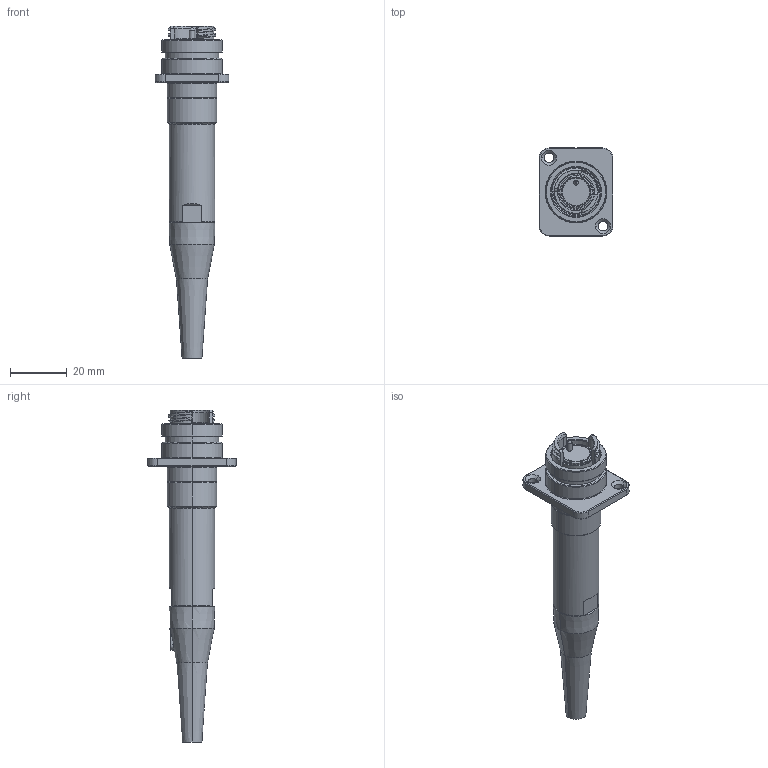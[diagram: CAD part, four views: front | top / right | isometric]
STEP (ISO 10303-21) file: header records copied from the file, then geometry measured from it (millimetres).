
FILE_DESCRIPTION (( 'STEP AP214' ), '1' );
FILE_NAME ('QMICRO-RXXX-XXXX-SX5.STEP', '2025-05-02T23:46:47', ( '' ), ( '' ), 'SwSTEP 2.0', 'SolidWorks 2024', '' );
FILE_SCHEMA (( 'AUTOMOTIVE_DESIGN' ));
Length unit declared in the file: inch
Products named in the file (1): QMICRO-RXXX-XXXX-SX5
Bounding box: 26 x 31 x 116.82 mm (x, y, z)
Volume: 20315.2 mm3; surface area: 8824.7 mm2
Topology: 1 solids, 1 shells, 200 faces, 469 edges, 287 vertices
Faces by surface type: cylinder 63, cone 59, plane 51, bspline 16, torus 11
Entity records: 8889 total; most frequent: CARTESIAN_POINT 4435, ORIENTED_EDGE 938, DIRECTION 916, EDGE_CURVE 469, AXIS2_PLACEMENT_3D 364, VERTEX_POINT 287, EDGE_LOOP 220, ADVANCED_FACE 200
